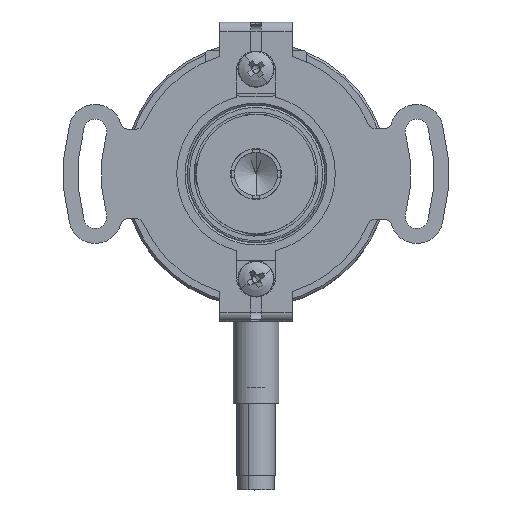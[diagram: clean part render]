
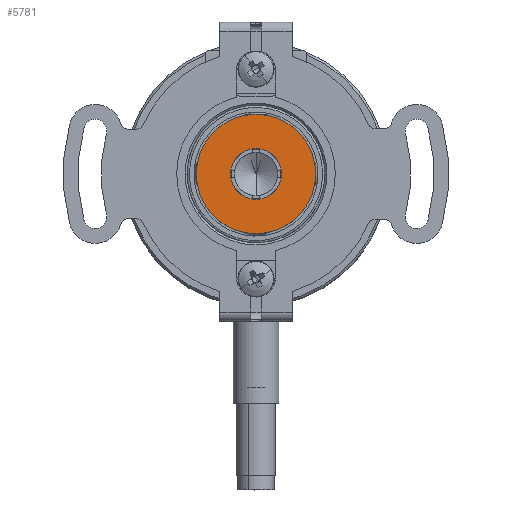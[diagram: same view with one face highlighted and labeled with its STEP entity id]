
A CAD part, top view. The second image highlights one B-rep face of the part: STEP entity #5781.
In plain terms, the highlighted planar face has unit normal (0, 0, 1).
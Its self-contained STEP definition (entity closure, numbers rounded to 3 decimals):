
#343 = AXIS2_PLACEMENT_3D ( 'NONE', #1650, #3247, #6080 ) ;
#381 = CARTESIAN_POINT ( 'NONE',  ( 0., 0., 4.3 ) ) ;
#399 = CIRCLE ( 'NONE', #8333, 8.25 ) ;
#540 = VERTEX_POINT ( 'NONE', #9513 ) ;
#854 = CIRCLE ( 'NONE', #5944, 8.25 ) ;
#998 = ORIENTED_EDGE ( 'NONE', *, *, #7402, .T. ) ;
#1424 = DIRECTION ( 'NONE',  ( 0., 0., -1. ) ) ;
#1449 = DIRECTION ( 'NONE',  ( -1., 0., 0. ) ) ;
#1650 = CARTESIAN_POINT ( 'NONE',  ( 0., 0., 4.3 ) ) ;
#1689 = CARTESIAN_POINT ( 'NONE',  ( 3.5, 0., 4.3 ) ) ;
#1746 = DIRECTION ( 'NONE',  ( 0., 0., -1. ) ) ;
#2440 = EDGE_LOOP ( 'NONE', ( #8684, #3509 ) ) ;
#2489 = FACE_BOUND ( 'NONE', #3696, .T. ) ;
#2534 = EDGE_CURVE ( 'NONE', #4351, #10216, #854, .T. ) ;
#2867 = CARTESIAN_POINT ( 'NONE',  ( -8.25, 0., 4.3 ) ) ;
#3247 = DIRECTION ( 'NONE',  ( 0., 0., -1. ) ) ;
#3509 = ORIENTED_EDGE ( 'NONE', *, *, #4145, .F. ) ;
#3696 = EDGE_LOOP ( 'NONE', ( #998, #9720 ) ) ;
#4145 = EDGE_CURVE ( 'NONE', #10216, #4351, #399, .T. ) ;
#4351 = VERTEX_POINT ( 'NONE', #2867 ) ;
#5030 = VERTEX_POINT ( 'NONE', #1689 ) ;
#5359 = DIRECTION ( 'NONE',  ( -1., 0., 0. ) ) ;
#5467 = CIRCLE ( 'NONE', #343, 3.5 ) ;
#5781 = ADVANCED_FACE ( 'NONE', ( #2489, #9505 ), #5912, .F. ) ;
#5912 = PLANE ( 'NONE',  #11162 ) ;
#5944 = AXIS2_PLACEMENT_3D ( 'NONE', #381, #10366, #7779 ) ;
#6080 = DIRECTION ( 'NONE',  ( -1., 0., 0. ) ) ;
#7223 = CARTESIAN_POINT ( 'NONE',  ( 8.25, 0., 4.3 ) ) ;
#7402 = EDGE_CURVE ( 'NONE', #540, #5030, #5467, .T. ) ;
#7779 = DIRECTION ( 'NONE',  ( -1., 0., 0. ) ) ;
#7795 = AXIS2_PLACEMENT_3D ( 'NONE', #9538, #9601, #1449 ) ;
#8014 = CARTESIAN_POINT ( 'NONE',  ( 0., 0., 4.3 ) ) ;
#8333 = AXIS2_PLACEMENT_3D ( 'NONE', #8014, #1746, #5359 ) ;
#8684 = ORIENTED_EDGE ( 'NONE', *, *, #2534, .F. ) ;
#9196 = EDGE_CURVE ( 'NONE', #5030, #540, #10621, .T. ) ;
#9505 = FACE_OUTER_BOUND ( 'NONE', #2440, .T. ) ;
#9513 = CARTESIAN_POINT ( 'NONE',  ( -3.5, 0., 4.3 ) ) ;
#9538 = CARTESIAN_POINT ( 'NONE',  ( 0., 0., 4.3 ) ) ;
#9568 = CARTESIAN_POINT ( 'NONE',  ( 0., 8.25, 4.3 ) ) ;
#9601 = DIRECTION ( 'NONE',  ( 0., 0., -1. ) ) ;
#9720 = ORIENTED_EDGE ( 'NONE', *, *, #9196, .T. ) ;
#9751 = DIRECTION ( 'NONE',  ( -1., 0., 0. ) ) ;
#10216 = VERTEX_POINT ( 'NONE', #7223 ) ;
#10366 = DIRECTION ( 'NONE',  ( 0., 0., -1. ) ) ;
#10621 = CIRCLE ( 'NONE', #7795, 3.5 ) ;
#11162 = AXIS2_PLACEMENT_3D ( 'NONE', #9568, #1424, #9751 ) ;
